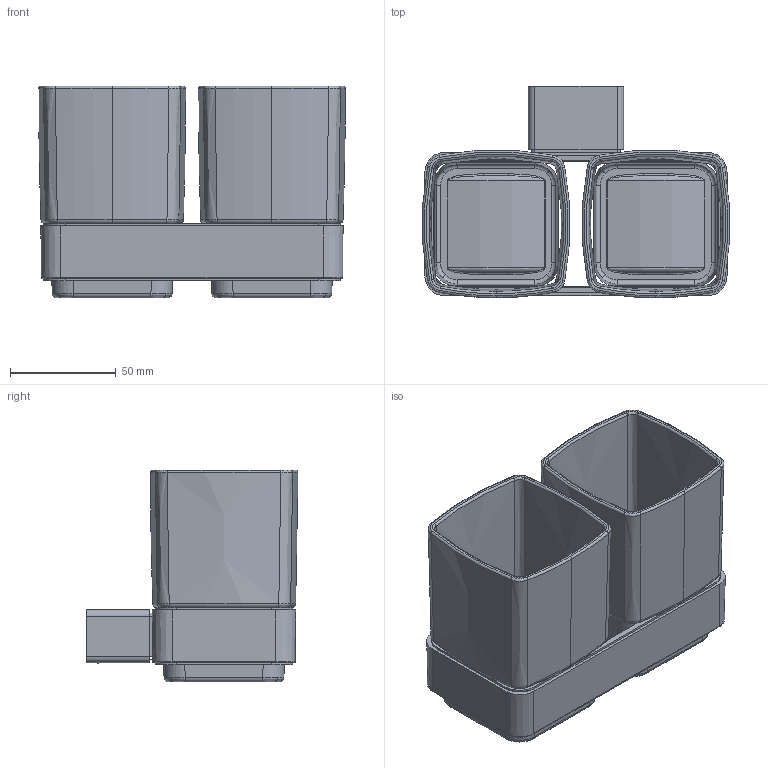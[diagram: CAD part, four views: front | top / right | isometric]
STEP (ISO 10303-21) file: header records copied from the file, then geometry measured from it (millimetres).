
FILE_DESCRIPTION (( 'STEP AP203' ), '1' );
FILE_NAME ('11319A-00-00.STEP', '2022-07-06T05:48:02', ( 'Windows User' ), ( 'P R C' ), 'SwSTEP 2.0', 'SolidWorks 2015', '' );
FILE_SCHEMA (( 'CONFIG_CONTROL_DESIGN' ));
Length unit declared in the file: millimetre
Products named in the file (1): 11319A-00-00
Bounding box: 144.9 x 100.19 x 100 mm (x, y, z)
Surface area: 113867.8 mm2 (no closed solid volume)
Topology: 0 solids, 11 shells, 331 faces, 958 edges, 638 vertices
Faces by surface type: plane 104, cylinder 89, bspline 68, torus 42, cone 28
Entity records: 13906 total; most frequent: CARTESIAN_POINT 5770, ORIENTED_EDGE 1625, DIRECTION 1610, EDGE_CURVE 958, VERTEX_POINT 638, AXIS2_PLACEMENT_3D 586, VECTOR 438, LINE 438
